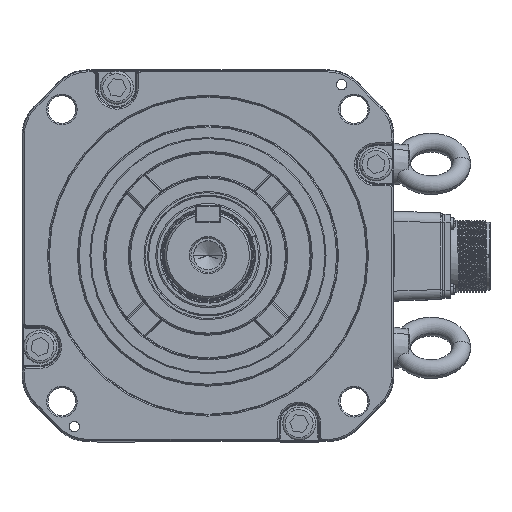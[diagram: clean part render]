
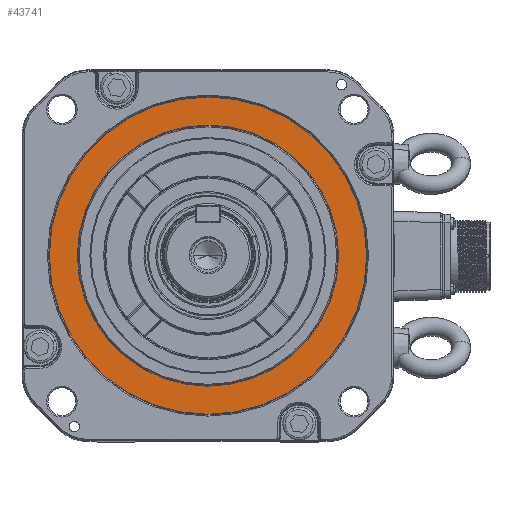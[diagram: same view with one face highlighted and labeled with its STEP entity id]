
A CAD part, top view. The second image highlights one B-rep face of the part: STEP entity #43741.
In plain terms, the highlighted planar face has unit normal (0, 0, 1).
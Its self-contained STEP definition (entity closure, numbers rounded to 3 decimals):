
#2859 = VERTEX_POINT ( 'NONE', #15773 ) ;
#7449 = VERTEX_POINT ( 'NONE', #116529 ) ;
#12117 = DIRECTION ( 'NONE',  ( 0., 0., -1. ) ) ;
#12709 = CARTESIAN_POINT ( 'NONE',  ( 0., 77., -3.7 ) ) ;
#13325 = PLANE ( 'NONE',  #35666 ) ;
#13500 = CARTESIAN_POINT ( 'NONE',  ( 0., 0., -3.7 ) ) ;
#14813 = EDGE_CURVE ( 'NONE', #7449, #23541, #19193, .T. ) ;
#15773 = CARTESIAN_POINT ( 'NONE',  ( 63.207, 0., -3.7 ) ) ;
#17253 = AXIS2_PLACEMENT_3D ( 'NONE', #13500, #32506, #49679 ) ;
#19193 = CIRCLE ( 'NONE', #17253, 76.793 ) ;
#19587 = AXIS2_PLACEMENT_3D ( 'NONE', #85292, #65767, #40085 ) ;
#21433 = EDGE_LOOP ( 'NONE', ( #104721, #103584 ) ) ;
#23541 = VERTEX_POINT ( 'NONE', #118067 ) ;
#25563 = DIRECTION ( 'NONE',  ( 0., 0., -1. ) ) ;
#30518 = DIRECTION ( 'NONE',  ( -1., 0., 0. ) ) ;
#32506 = DIRECTION ( 'NONE',  ( 0., 0., 1. ) ) ;
#35666 = AXIS2_PLACEMENT_3D ( 'NONE', #12709, #12117, #30518 ) ;
#38183 = VERTEX_POINT ( 'NONE', #58029 ) ;
#39315 = CIRCLE ( 'NONE', #60771, 76.793 ) ;
#40085 = DIRECTION ( 'NONE',  ( -1., 0., 0. ) ) ;
#43741 = ADVANCED_FACE ( 'NONE', ( #93030, #71711 ), #13325, .F. ) ;
#49446 = DIRECTION ( 'NONE',  ( -1., 0., 0. ) ) ;
#49679 = DIRECTION ( 'NONE',  ( -1., 0., 0. ) ) ;
#57390 = EDGE_CURVE ( 'NONE', #23541, #7449, #39315, .T. ) ;
#58029 = CARTESIAN_POINT ( 'NONE',  ( -63.207, 0., -3.7 ) ) ;
#60771 = AXIS2_PLACEMENT_3D ( 'NONE', #104382, #102572, #49446 ) ;
#61661 = CARTESIAN_POINT ( 'NONE',  ( 0., 0., -3.7 ) ) ;
#65767 = DIRECTION ( 'NONE',  ( 0., 0., -1. ) ) ;
#70490 = AXIS2_PLACEMENT_3D ( 'NONE', #61661, #25563, #98888 ) ;
#71711 = FACE_BOUND ( 'NONE', #89067, .T. ) ;
#84712 = EDGE_CURVE ( 'NONE', #2859, #38183, #111446, .T. ) ;
#85292 = CARTESIAN_POINT ( 'NONE',  ( 0., 0., -3.7 ) ) ;
#89067 = EDGE_LOOP ( 'NONE', ( #112998, #100059 ) ) ;
#89901 = CIRCLE ( 'NONE', #19587, 63.207 ) ;
#93030 = FACE_OUTER_BOUND ( 'NONE', #21433, .T. ) ;
#98888 = DIRECTION ( 'NONE',  ( -1., 0., 0. ) ) ;
#99845 = EDGE_CURVE ( 'NONE', #38183, #2859, #89901, .T. ) ;
#100059 = ORIENTED_EDGE ( 'NONE', *, *, #84712, .T. ) ;
#102572 = DIRECTION ( 'NONE',  ( 0., 0., 1. ) ) ;
#103584 = ORIENTED_EDGE ( 'NONE', *, *, #14813, .T. ) ;
#104382 = CARTESIAN_POINT ( 'NONE',  ( 0., 0., -3.7 ) ) ;
#104721 = ORIENTED_EDGE ( 'NONE', *, *, #57390, .T. ) ;
#111446 = CIRCLE ( 'NONE', #70490, 63.207 ) ;
#112998 = ORIENTED_EDGE ( 'NONE', *, *, #99845, .T. ) ;
#116529 = CARTESIAN_POINT ( 'NONE',  ( 76.793, 0., -3.7 ) ) ;
#118067 = CARTESIAN_POINT ( 'NONE',  ( -76.793, 0., -3.7 ) ) ;
